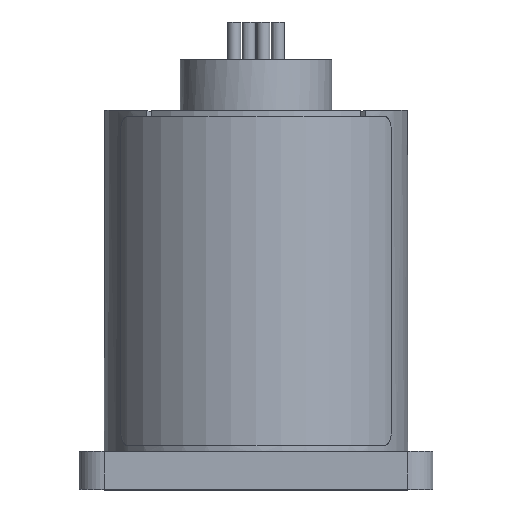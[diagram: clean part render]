
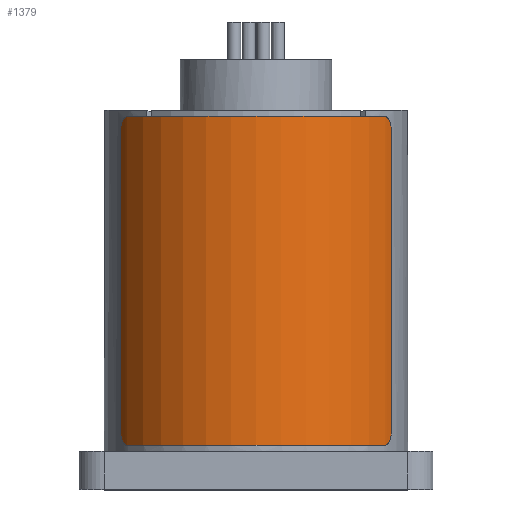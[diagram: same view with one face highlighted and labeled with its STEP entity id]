
A CAD part, top view. The second image highlights one B-rep face of the part: STEP entity #1379.
In plain terms, the highlighted cylindrical face has radius 12.1 mm (diameter 24.2 mm), a partial arc.
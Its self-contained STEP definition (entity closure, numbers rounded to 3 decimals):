
#265=B_SPLINE_CURVE_WITH_KNOTS('',3,(#6632,#6633,#6634,#6635,#6636,#6637,
#6638,#6639,#6640,#6641,#6642,#6643,#6644,#6645,#6646,#6647),
 .UNSPECIFIED.,.F.,.F.,(4,3,3,3,3,4),(0.,0.215,0.429,
0.644,0.858,1.),.UNSPECIFIED.);
#266=B_SPLINE_CURVE_WITH_KNOTS('',3,(#6648,#6649,#6650,#6651,#6652,#6653,
#6654,#6655,#6656,#6657,#6658,#6659,#6660,#6661,#6662,#6663),
 .UNSPECIFIED.,.F.,.F.,(4,3,3,3,3,4),(0.,0.215,0.43,
0.644,0.859,1.),.UNSPECIFIED.);
#267=B_SPLINE_CURVE_WITH_KNOTS('',3,(#6667,#6668,#6669,#6670,#6671,#6672,
#6673,#6674,#6675,#6676,#6677,#6678,#6679,#6680,#6681,#6682),
 .UNSPECIFIED.,.F.,.F.,(4,3,3,3,3,4),(0.,0.215,0.429,
0.644,0.858,1.),.UNSPECIFIED.);
#268=B_SPLINE_CURVE_WITH_KNOTS('',3,(#6686,#6687,#6688,#6689,#6690,#6691,
#6692,#6693,#6694,#6695,#6696,#6697,#6698,#6699,#6700,#6701),
 .UNSPECIFIED.,.F.,.F.,(4,3,3,3,3,4),(0.,0.215,0.43,
0.644,0.859,1.),.UNSPECIFIED.);
#298=FACE_OUTER_BOUND('',#1931,.T.);
#503=LINE('',#6620,#902);
#507=LINE('',#6684,#906);
#902=VECTOR('',#5292,1.);
#906=VECTOR('',#5302,1.);
#1322=CYLINDRICAL_SURFACE('',#4799,12.1);
#1379=ADVANCED_FACE('',(#298),#1322,.T.);
#1931=EDGE_LOOP('',(#2245,#2246,#2247,#2248,#2249,#2250,#2251,#2252));
#2245=ORIENTED_EDGE('',*,*,#3986,.F.);
#2246=ORIENTED_EDGE('',*,*,#3987,.T.);
#2247=ORIENTED_EDGE('',*,*,#3982,.F.);
#2248=ORIENTED_EDGE('',*,*,#3988,.T.);
#2249=ORIENTED_EDGE('',*,*,#3989,.T.);
#2250=ORIENTED_EDGE('',*,*,#3990,.T.);
#2251=ORIENTED_EDGE('',*,*,#3991,.T.);
#2252=ORIENTED_EDGE('',*,*,#3992,.T.);
#3534=VERTEX_POINT('',#6621);
#3535=VERTEX_POINT('',#6622);
#3538=VERTEX_POINT('',#6630);
#3539=VERTEX_POINT('',#6631);
#3540=VERTEX_POINT('',#6664);
#3541=VERTEX_POINT('',#6666);
#3542=VERTEX_POINT('',#6683);
#3543=VERTEX_POINT('',#6685);
#3982=EDGE_CURVE('',#3534,#3535,#503,.T.);
#3986=EDGE_CURVE('',#3538,#3539,#4633,.T.);
#3987=EDGE_CURVE('',#3538,#3535,#265,.T.);
#3988=EDGE_CURVE('',#3534,#3540,#266,.T.);
#3989=EDGE_CURVE('',#3540,#3541,#4634,.T.);
#3990=EDGE_CURVE('',#3541,#3542,#267,.T.);
#3991=EDGE_CURVE('',#3542,#3543,#507,.T.);
#3992=EDGE_CURVE('',#3543,#3539,#268,.T.);
#4633=CIRCLE('',#4797,12.1);
#4634=CIRCLE('',#4798,12.1);
#4797=AXIS2_PLACEMENT_3D('',#6629,#5298,#5299);
#4798=AXIS2_PLACEMENT_3D('',#6665,#5300,#5301);
#4799=AXIS2_PLACEMENT_3D('',#6702,#5303,#5304);
#5292=DIRECTION('',(0.,-1.,0.));
#5298=DIRECTION('',(0.,-1.,0.));
#5299=DIRECTION('',(-1.,0.,0.));
#5300=DIRECTION('',(0.,-1.,0.));
#5301=DIRECTION('',(-1.,0.,0.));
#5302=DIRECTION('',(0.,-1.,0.));
#5303=DIRECTION('',(0.,-1.,0.));
#5304=DIRECTION('',(-1.,0.,0.));
#6620=CARTESIAN_POINT('',(10.691,29.5,5.667));
#6621=CARTESIAN_POINT('',(10.691,28.5,5.667));
#6622=CARTESIAN_POINT('',(10.691,4.5,5.667));
#6629=CARTESIAN_POINT('',(0.,3.5,0.));
#6630=CARTESIAN_POINT('',(10.186,3.5,6.532));
#6631=CARTESIAN_POINT('',(-10.186,3.5,6.532));
#6632=CARTESIAN_POINT('',(10.186,3.5,6.532));
#6633=CARTESIAN_POINT('',(10.246,3.5,6.437));
#6634=CARTESIAN_POINT('',(10.306,3.519,6.341));
#6635=CARTESIAN_POINT('',(10.361,3.556,6.251));
#6636=CARTESIAN_POINT('',(10.415,3.593,6.16));
#6637=CARTESIAN_POINT('',(10.466,3.649,6.073));
#6638=CARTESIAN_POINT('',(10.509,3.718,5.997));
#6639=CARTESIAN_POINT('',(10.553,3.788,5.921));
#6640=CARTESIAN_POINT('',(10.59,3.874,5.854));
#6641=CARTESIAN_POINT('',(10.618,3.968,5.802));
#6642=CARTESIAN_POINT('',(10.647,4.063,5.75));
#6643=CARTESIAN_POINT('',(10.667,4.169,5.711));
#6644=CARTESIAN_POINT('',(10.679,4.278,5.689));
#6645=CARTESIAN_POINT('',(10.687,4.351,5.675));
#6646=CARTESIAN_POINT('',(10.691,4.426,5.667));
#6647=CARTESIAN_POINT('',(10.691,4.5,5.667));
#6648=CARTESIAN_POINT('',(10.691,28.5,5.667));
#6649=CARTESIAN_POINT('',(10.691,28.612,5.667));
#6650=CARTESIAN_POINT('',(10.682,28.725,5.685));
#6651=CARTESIAN_POINT('',(10.664,28.831,5.717));
#6652=CARTESIAN_POINT('',(10.647,28.937,5.75));
#6653=CARTESIAN_POINT('',(10.62,29.037,5.799));
#6654=CARTESIAN_POINT('',(10.586,29.125,5.86));
#6655=CARTESIAN_POINT('',(10.552,29.212,5.921));
#6656=CARTESIAN_POINT('',(10.51,29.289,5.996));
#6657=CARTESIAN_POINT('',(10.463,29.348,6.078));
#6658=CARTESIAN_POINT('',(10.415,29.407,6.16));
#6659=CARTESIAN_POINT('',(10.361,29.451,6.251));
#6660=CARTESIAN_POINT('',(10.303,29.475,6.344));
#6661=CARTESIAN_POINT('',(10.265,29.492,6.406));
#6662=CARTESIAN_POINT('',(10.226,29.5,6.469));
#6663=CARTESIAN_POINT('',(10.186,29.5,6.532));
#6664=CARTESIAN_POINT('',(10.186,29.5,6.532));
#6665=CARTESIAN_POINT('',(0.,29.5,0.));
#6666=CARTESIAN_POINT('',(-10.186,29.5,6.532));
#6667=CARTESIAN_POINT('',(-10.186,29.5,6.532));
#6668=CARTESIAN_POINT('',(-10.246,29.5,6.437));
#6669=CARTESIAN_POINT('',(-10.306,29.481,6.341));
#6670=CARTESIAN_POINT('',(-10.361,29.444,6.251));
#6671=CARTESIAN_POINT('',(-10.415,29.407,6.16));
#6672=CARTESIAN_POINT('',(-10.466,29.351,6.073));
#6673=CARTESIAN_POINT('',(-10.509,29.282,5.997));
#6674=CARTESIAN_POINT('',(-10.553,29.212,5.921));
#6675=CARTESIAN_POINT('',(-10.59,29.126,5.854));
#6676=CARTESIAN_POINT('',(-10.618,29.032,5.802));
#6677=CARTESIAN_POINT('',(-10.647,28.937,5.75));
#6678=CARTESIAN_POINT('',(-10.667,28.831,5.711));
#6679=CARTESIAN_POINT('',(-10.679,28.722,5.689));
#6680=CARTESIAN_POINT('',(-10.687,28.649,5.675));
#6681=CARTESIAN_POINT('',(-10.691,28.574,5.667));
#6682=CARTESIAN_POINT('',(-10.691,28.5,5.667));
#6683=CARTESIAN_POINT('',(-10.691,28.5,5.667));
#6684=CARTESIAN_POINT('',(-10.691,29.5,5.667));
#6685=CARTESIAN_POINT('',(-10.691,4.5,5.667));
#6686=CARTESIAN_POINT('',(-10.691,4.5,5.667));
#6687=CARTESIAN_POINT('',(-10.691,4.388,5.667));
#6688=CARTESIAN_POINT('',(-10.682,4.275,5.685));
#6689=CARTESIAN_POINT('',(-10.664,4.169,5.717));
#6690=CARTESIAN_POINT('',(-10.647,4.063,5.75));
#6691=CARTESIAN_POINT('',(-10.62,3.963,5.799));
#6692=CARTESIAN_POINT('',(-10.586,3.875,5.86));
#6693=CARTESIAN_POINT('',(-10.552,3.788,5.921));
#6694=CARTESIAN_POINT('',(-10.51,3.711,5.996));
#6695=CARTESIAN_POINT('',(-10.463,3.652,6.078));
#6696=CARTESIAN_POINT('',(-10.415,3.593,6.16));
#6697=CARTESIAN_POINT('',(-10.361,3.549,6.251));
#6698=CARTESIAN_POINT('',(-10.303,3.525,6.344));
#6699=CARTESIAN_POINT('',(-10.265,3.508,6.406));
#6700=CARTESIAN_POINT('',(-10.226,3.5,6.469));
#6701=CARTESIAN_POINT('',(-10.186,3.5,6.532));
#6702=CARTESIAN_POINT('',(0.,29.5,0.));
